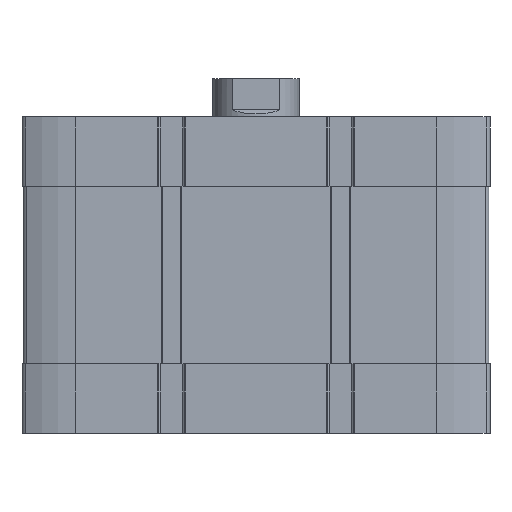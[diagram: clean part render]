
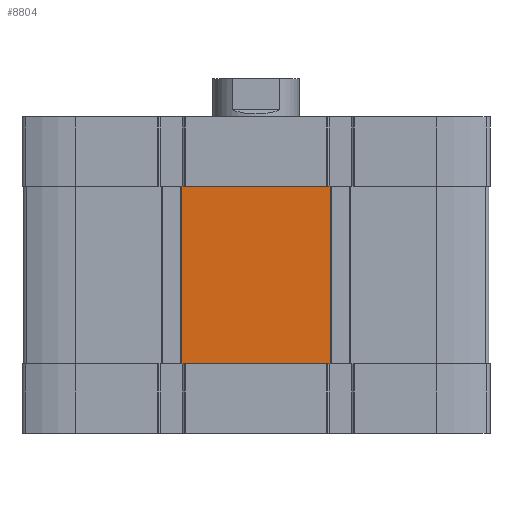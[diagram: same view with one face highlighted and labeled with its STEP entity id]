
A CAD part, front view. The second image highlights one B-rep face of the part: STEP entity #8804.
In plain terms, the highlighted planar face has unit normal (0, -1, 0).
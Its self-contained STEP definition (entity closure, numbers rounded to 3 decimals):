
#209 = AXIS2_PLACEMENT_3D ( 'NONE', #10586, #3028, #16159 ) ;
#301 = CARTESIAN_POINT ( 'NONE',  ( -21.3, -67., -71. ) ) ;
#326 = PLANE ( 'NONE',  #209 ) ;
#900 = DIRECTION ( 'NONE',  ( 0., 0., 1. ) ) ;
#949 = VERTEX_POINT ( 'NONE', #2206 ) ;
#1335 = LINE ( 'NONE', #8020, #9948 ) ;
#2115 = CARTESIAN_POINT ( 'NONE',  ( -67., -67., -20. ) ) ;
#2206 = CARTESIAN_POINT ( 'NONE',  ( -21.3, -67., -71. ) ) ;
#2239 = ORIENTED_EDGE ( 'NONE', *, *, #3365, .F. ) ;
#2251 = LINE ( 'NONE', #17114, #10173 ) ;
#2354 = VECTOR ( 'NONE', #4642, 1000. ) ;
#2813 = LINE ( 'NONE', #7936, #15760 ) ;
#3028 = DIRECTION ( 'NONE',  ( 0., -1., 0. ) ) ;
#3072 = VERTEX_POINT ( 'NONE', #15546 ) ;
#3341 = CARTESIAN_POINT ( 'NONE',  ( -21.3, -67., -20. ) ) ;
#3365 = EDGE_CURVE ( 'NONE', #949, #10883, #12220, .T. ) ;
#3419 = LINE ( 'NONE', #2115, #2354 ) ;
#3982 = FACE_OUTER_BOUND ( 'NONE', #16458, .T. ) ;
#4112 = ORIENTED_EDGE ( 'NONE', *, *, #5279, .F. ) ;
#4150 = ORIENTED_EDGE ( 'NONE', *, *, #6395, .F. ) ;
#4281 = EDGE_CURVE ( 'NONE', #13504, #6224, #4430, .T. ) ;
#4430 = LINE ( 'NONE', #12250, #13526 ) ;
#4642 = DIRECTION ( 'NONE',  ( 1., 0., 0. ) ) ;
#4703 = LINE ( 'NONE', #8527, #5707 ) ;
#4712 = CARTESIAN_POINT ( 'NONE',  ( 21.3, -67., -20. ) ) ;
#5279 = EDGE_CURVE ( 'NONE', #11016, #9802, #3419, .T. ) ;
#5643 = EDGE_CURVE ( 'NONE', #10883, #3072, #4703, .T. ) ;
#5707 = VECTOR ( 'NONE', #16450, 1000. ) ;
#5720 = CARTESIAN_POINT ( 'NONE',  ( 20.687, -67., -71. ) ) ;
#6032 = ORIENTED_EDGE ( 'NONE', *, *, #14254, .T. ) ;
#6224 = VERTEX_POINT ( 'NONE', #15791 ) ;
#6395 = EDGE_CURVE ( 'NONE', #3072, #11016, #15260, .T. ) ;
#6460 = VECTOR ( 'NONE', #900, 1000. ) ;
#7238 = CARTESIAN_POINT ( 'NONE',  ( 20.687, -67., -20. ) ) ;
#7614 = CARTESIAN_POINT ( 'NONE',  ( -20.687, -67., -71. ) ) ;
#7936 = CARTESIAN_POINT ( 'NONE',  ( -21.3, -67., -71. ) ) ;
#8020 = CARTESIAN_POINT ( 'NONE',  ( -67., -67., -71. ) ) ;
#8527 = CARTESIAN_POINT ( 'NONE',  ( -67., -67., -20. ) ) ;
#8776 = VECTOR ( 'NONE', #12811, 1000. ) ;
#8804 = ADVANCED_FACE ( 'NONE', ( #3982 ), #326, .T. ) ;
#9573 = EDGE_CURVE ( 'NONE', #949, #13745, #1335, .T. ) ;
#9631 = DIRECTION ( 'NONE',  ( 1., 0., 0. ) ) ;
#9802 = VERTEX_POINT ( 'NONE', #4712 ) ;
#9948 = VECTOR ( 'NONE', #12027, 1000. ) ;
#10173 = VECTOR ( 'NONE', #15483, 1000. ) ;
#10547 = DIRECTION ( 'NONE',  ( 1., 0., 0. ) ) ;
#10586 = CARTESIAN_POINT ( 'NONE',  ( -67., -67., -71. ) ) ;
#10883 = VERTEX_POINT ( 'NONE', #16463 ) ;
#11016 = VERTEX_POINT ( 'NONE', #7238 ) ;
#12027 = DIRECTION ( 'NONE',  ( 1., 0., 0. ) ) ;
#12220 = LINE ( 'NONE', #301, #6460 ) ;
#12227 = EDGE_CURVE ( 'NONE', #6224, #9802, #2251, .T. ) ;
#12250 = CARTESIAN_POINT ( 'NONE',  ( -67., -67., -71. ) ) ;
#12811 = DIRECTION ( 'NONE',  ( 1., 0., 0. ) ) ;
#13004 = ORIENTED_EDGE ( 'NONE', *, *, #9573, .T. ) ;
#13087 = ORIENTED_EDGE ( 'NONE', *, *, #4281, .T. ) ;
#13504 = VERTEX_POINT ( 'NONE', #5720 ) ;
#13526 = VECTOR ( 'NONE', #9631, 1000. ) ;
#13695 = ORIENTED_EDGE ( 'NONE', *, *, #5643, .F. ) ;
#13745 = VERTEX_POINT ( 'NONE', #7614 ) ;
#13987 = ORIENTED_EDGE ( 'NONE', *, *, #12227, .T. ) ;
#14254 = EDGE_CURVE ( 'NONE', #13745, #13504, #2813, .T. ) ;
#15260 = LINE ( 'NONE', #3341, #8776 ) ;
#15483 = DIRECTION ( 'NONE',  ( 0., 0., 1. ) ) ;
#15546 = CARTESIAN_POINT ( 'NONE',  ( -20.687, -67., -20. ) ) ;
#15760 = VECTOR ( 'NONE', #10547, 1000. ) ;
#15791 = CARTESIAN_POINT ( 'NONE',  ( 21.3, -67., -71. ) ) ;
#16159 = DIRECTION ( 'NONE',  ( 0., 0., -1. ) ) ;
#16450 = DIRECTION ( 'NONE',  ( 1., 0., 0. ) ) ;
#16458 = EDGE_LOOP ( 'NONE', ( #2239, #13004, #6032, #13087, #13987, #4112, #4150, #13695 ) ) ;
#16463 = CARTESIAN_POINT ( 'NONE',  ( -21.3, -67., -20. ) ) ;
#17114 = CARTESIAN_POINT ( 'NONE',  ( 21.3, -67., -71. ) ) ;
